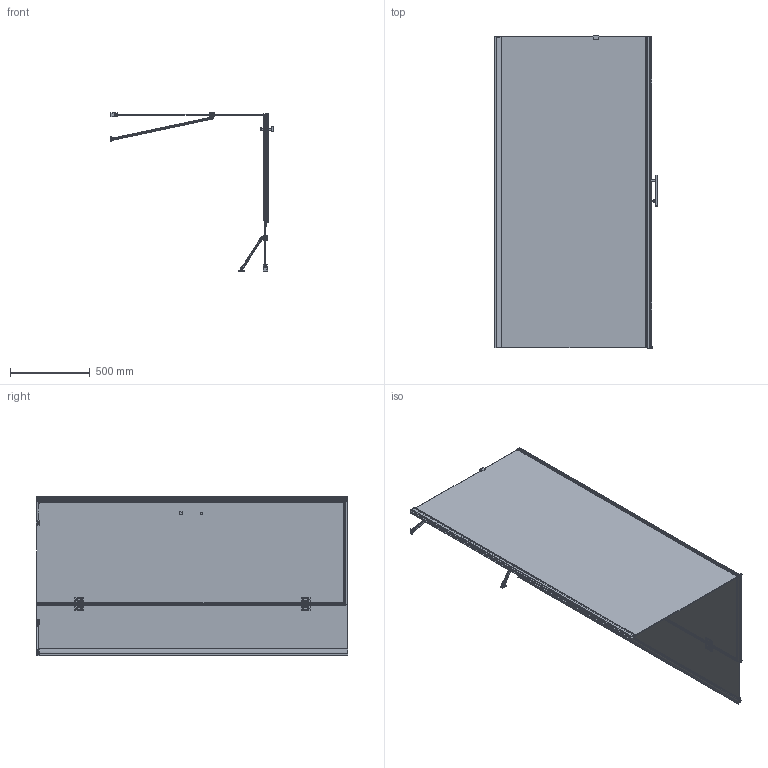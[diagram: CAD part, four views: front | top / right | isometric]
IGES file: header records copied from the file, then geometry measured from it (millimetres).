
Global section: file name: 767e754d-8636-490f-8880-76de7f1165d9; native system: unknown; preprocessor: unknown; author: unknown; organization: unknown; date: 20201020.115111; units: millimetre
Bounding box: 1020.23 x 1955.35 x 996.9 mm (x, y, z)
Volume: 23022659.2 mm3; surface area: 9551827.8 mm2
Topology: 64 solids, 64 shells, 3393 faces, 8777 edges, 5494 vertices
Faces by surface type: bspline 3392, offset 1
